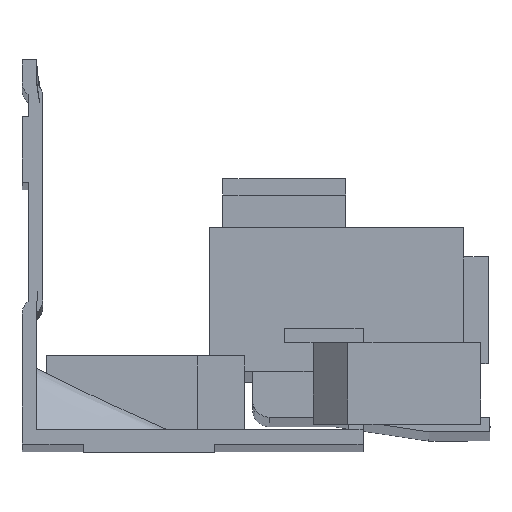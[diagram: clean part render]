
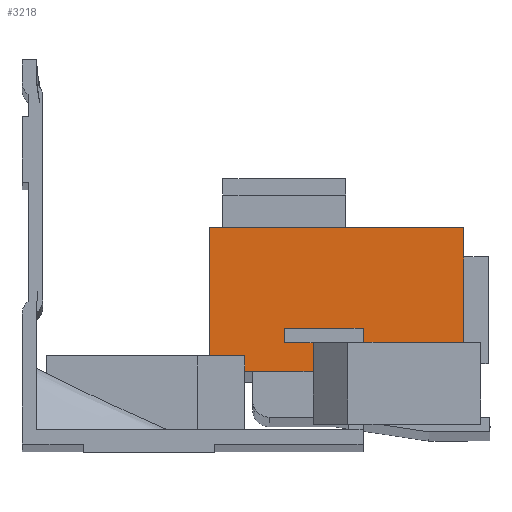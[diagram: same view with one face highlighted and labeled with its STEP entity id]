
A CAD part, front view. The second image highlights one B-rep face of the part: STEP entity #3218.
In plain terms, the highlighted planar face has unit normal (0, -1, 0).
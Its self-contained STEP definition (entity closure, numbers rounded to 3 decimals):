
#416 = EDGE_LOOP ( 'NONE', ( #914, #913, #912, #911, #910, #909, #908, #907, #906, #905, #904, #903 ) ) ;
#903 = ORIENTED_EDGE ( 'NONE', *, *, #2536, .F. ) ;
#904 = ORIENTED_EDGE ( 'NONE', *, *, #2537, .F. ) ;
#905 = ORIENTED_EDGE ( 'NONE', *, *, #2538, .F. ) ;
#906 = ORIENTED_EDGE ( 'NONE', *, *, #2260, .F. ) ;
#907 = ORIENTED_EDGE ( 'NONE', *, *, #2272, .F. ) ;
#908 = ORIENTED_EDGE ( 'NONE', *, *, #2575, .T. ) ;
#909 = ORIENTED_EDGE ( 'NONE', *, *, #2550, .T. ) ;
#910 = ORIENTED_EDGE ( 'NONE', *, *, #2539, .T. ) ;
#911 = ORIENTED_EDGE ( 'NONE', *, *, #2540, .T. ) ;
#912 = ORIENTED_EDGE ( 'NONE', *, *, #2541, .T. ) ;
#913 = ORIENTED_EDGE ( 'NONE', *, *, #2542, .F. ) ;
#914 = ORIENTED_EDGE ( 'NONE', *, *, #2543, .F. ) ;
#944 = VERTEX_POINT ( 'NONE', #958 ) ;
#958 = CARTESIAN_POINT ( 'NONE',  ( 27.15, -20., -25.181 ) ) ;
#1258 = CARTESIAN_POINT ( 'NONE',  ( 53.9, -20., -9.558 ) ) ;
#1259 = DIRECTION ( 'NONE',  ( 1., 0., 0. ) ) ;
#1282 = CARTESIAN_POINT ( 'NONE',  ( 53.9, -20., -29.558 ) ) ;
#1283 = DIRECTION ( 'NONE',  ( 0., 0., -1. ) ) ;
#1897 = CARTESIAN_POINT ( 'NONE',  ( 27.15, -20., -27.058 ) ) ;
#1898 = DIRECTION ( 'NONE',  ( 0., 0., 1. ) ) ;
#1899 = CARTESIAN_POINT ( 'NONE',  ( 49.9, -20., -25.181 ) ) ;
#1900 = DIRECTION ( 'NONE',  ( -1., 0., 0. ) ) ;
#1901 = CARTESIAN_POINT ( 'NONE',  ( 22.9, -20., -27.058 ) ) ;
#1902 = DIRECTION ( 'NONE',  ( 0., 0., 1. ) ) ;
#1903 = CARTESIAN_POINT ( 'NONE',  ( 41.6, -20., -21.858 ) ) ;
#1904 = DIRECTION ( 'NONE',  ( 1., 0., 0. ) ) ;
#1905 = CARTESIAN_POINT ( 'NONE',  ( 32., -20., -21.831 ) ) ;
#1906 = DIRECTION ( 'NONE',  ( 0., 0., 1. ) ) ;
#1907 = CARTESIAN_POINT ( 'NONE',  ( 32., -20., -23.608 ) ) ;
#1908 = DIRECTION ( 'NONE',  ( -1., 0., 0. ) ) ;
#1909 = CARTESIAN_POINT ( 'NONE',  ( 35.5, -20., -27.058 ) ) ;
#1910 = DIRECTION ( 'NONE',  ( 0., 0., -1. ) ) ;
#1911 = CARTESIAN_POINT ( 'NONE',  ( 49.9, -20., -27.058 ) ) ;
#1912 = DIRECTION ( 'NONE',  ( -1., 0., 0. ) ) ;
#1925 = CARTESIAN_POINT ( 'NONE',  ( 41.6, -20., -35.931 ) ) ;
#1926 = DIRECTION ( 'NONE',  ( 0., 0., -1. ) ) ;
#1975 = CARTESIAN_POINT ( 'NONE',  ( 49.9, -20., -23.558 ) ) ;
#1976 = DIRECTION ( 'NONE',  ( 1., 0., 0. ) ) ;
#2060 = CARTESIAN_POINT ( 'NONE',  ( 32., -20., -23.608 ) ) ;
#2063 = CARTESIAN_POINT ( 'NONE',  ( 41.6, -20., -21.858 ) ) ;
#2067 = CARTESIAN_POINT ( 'NONE',  ( 41.6, -20., -23.558 ) ) ;
#2078 = CARTESIAN_POINT ( 'NONE',  ( 35.5, -20., -23.608 ) ) ;
#2124 = CARTESIAN_POINT ( 'NONE',  ( 53.9, -20., -23.558 ) ) ;
#2126 = CARTESIAN_POINT ( 'NONE',  ( 22.9, -20., -25.181 ) ) ;
#2128 = CARTESIAN_POINT ( 'NONE',  ( 22.9, -20., -9.558 ) ) ;
#2132 = CARTESIAN_POINT ( 'NONE',  ( 32., -20., -21.858 ) ) ;
#2260 = EDGE_CURVE ( 'NONE', #2976, #3032, #4923, .T. ) ;
#2272 = EDGE_CURVE ( 'NONE', #3032, #2972, #4947, .T. ) ;
#2536 = EDGE_CURVE ( 'NONE', #2994, #944, #5399, .T. ) ;
#2537 = EDGE_CURVE ( 'NONE', #944, #2974, #5401, .T. ) ;
#2538 = EDGE_CURVE ( 'NONE', #2974, #2976, #5403, .T. ) ;
#2539 = EDGE_CURVE ( 'NONE', #2980, #2911, #5405, .T. ) ;
#2540 = EDGE_CURVE ( 'NONE', #2908, #2980, #5407, .T. ) ;
#2541 = EDGE_CURVE ( 'NONE', #2926, #2908, #5409, .T. ) ;
#2542 = EDGE_CURVE ( 'NONE', #2926, #3250, #5411, .T. ) ;
#2543 = EDGE_CURVE ( 'NONE', #3250, #2994, #5413, .T. ) ;
#2550 = EDGE_CURVE ( 'NONE', #2911, #2915, #5427, .T. ) ;
#2575 = EDGE_CURVE ( 'NONE', #2915, #2972, #5477, .T. ) ;
#2802 = AXIS2_PLACEMENT_3D ( 'NONE', #4131, #4132, #4133 ) ;
#2908 = VERTEX_POINT ( 'NONE', #2060 ) ;
#2911 = VERTEX_POINT ( 'NONE', #2063 ) ;
#2915 = VERTEX_POINT ( 'NONE', #2067 ) ;
#2926 = VERTEX_POINT ( 'NONE', #2078 ) ;
#2972 = VERTEX_POINT ( 'NONE', #2124 ) ;
#2974 = VERTEX_POINT ( 'NONE', #2126 ) ;
#2976 = VERTEX_POINT ( 'NONE', #2128 ) ;
#2980 = VERTEX_POINT ( 'NONE', #2132 ) ;
#2994 = VERTEX_POINT ( 'NONE', #3268 ) ;
#3032 = VERTEX_POINT ( 'NONE', #3306 ) ;
#3218 = ADVANCED_FACE ( 'NONE', ( #5637 ), #4130, .F. ) ;
#3250 = VERTEX_POINT ( 'NONE', #4549 ) ;
#3268 = CARTESIAN_POINT ( 'NONE',  ( 27.15, -20., -27.058 ) ) ;
#3306 = CARTESIAN_POINT ( 'NONE',  ( 53.9, -20., -9.558 ) ) ;
#4130 = PLANE ( 'NONE',  #2802 ) ;
#4131 = CARTESIAN_POINT ( 'NONE',  ( 49.9, -20., -27.058 ) ) ;
#4132 = DIRECTION ( 'NONE',  ( 0., 1., 0. ) ) ;
#4133 = DIRECTION ( 'NONE',  ( 1., 0., 0. ) ) ;
#4549 = CARTESIAN_POINT ( 'NONE',  ( 35.5, -20., -27.058 ) ) ;
#4923 = LINE ( 'NONE', #1258, #4924 ) ;
#4924 = VECTOR ( 'NONE', #1259, 1000. ) ;
#4947 = LINE ( 'NONE', #1282, #4948 ) ;
#4948 = VECTOR ( 'NONE', #1283, 1000. ) ;
#5399 = LINE ( 'NONE', #1897, #5400 ) ;
#5400 = VECTOR ( 'NONE', #1898, 1000. ) ;
#5401 = LINE ( 'NONE', #1899, #5402 ) ;
#5402 = VECTOR ( 'NONE', #1900, 1000. ) ;
#5403 = LINE ( 'NONE', #1901, #5404 ) ;
#5404 = VECTOR ( 'NONE', #1902, 1000. ) ;
#5405 = LINE ( 'NONE', #1903, #5406 ) ;
#5406 = VECTOR ( 'NONE', #1904, 1000. ) ;
#5407 = LINE ( 'NONE', #1905, #5408 ) ;
#5408 = VECTOR ( 'NONE', #1906, 1000. ) ;
#5409 = LINE ( 'NONE', #1907, #5410 ) ;
#5410 = VECTOR ( 'NONE', #1908, 1000. ) ;
#5411 = LINE ( 'NONE', #1909, #5412 ) ;
#5412 = VECTOR ( 'NONE', #1910, 1000. ) ;
#5413 = LINE ( 'NONE', #1911, #5414 ) ;
#5414 = VECTOR ( 'NONE', #1912, 1000. ) ;
#5427 = LINE ( 'NONE', #1925, #5428 ) ;
#5428 = VECTOR ( 'NONE', #1926, 1000. ) ;
#5477 = LINE ( 'NONE', #1975, #5478 ) ;
#5478 = VECTOR ( 'NONE', #1976, 1000. ) ;
#5637 = FACE_OUTER_BOUND ( 'NONE', #416, .T. ) ;
